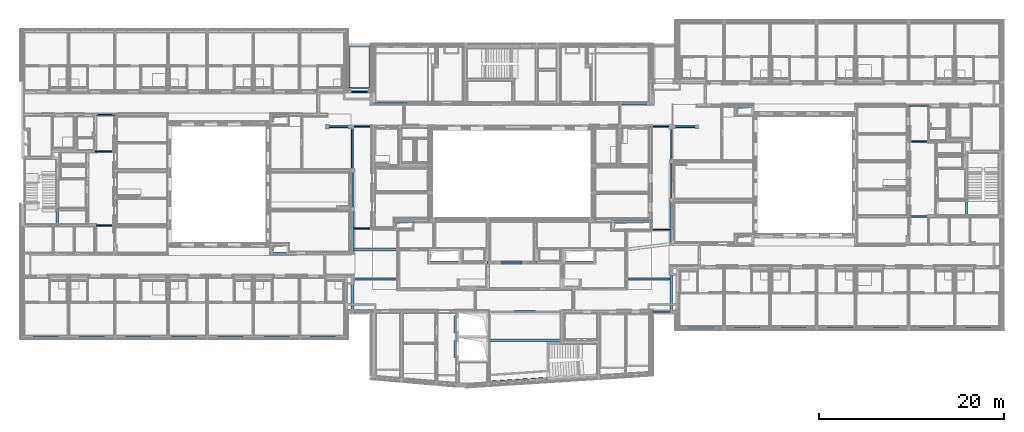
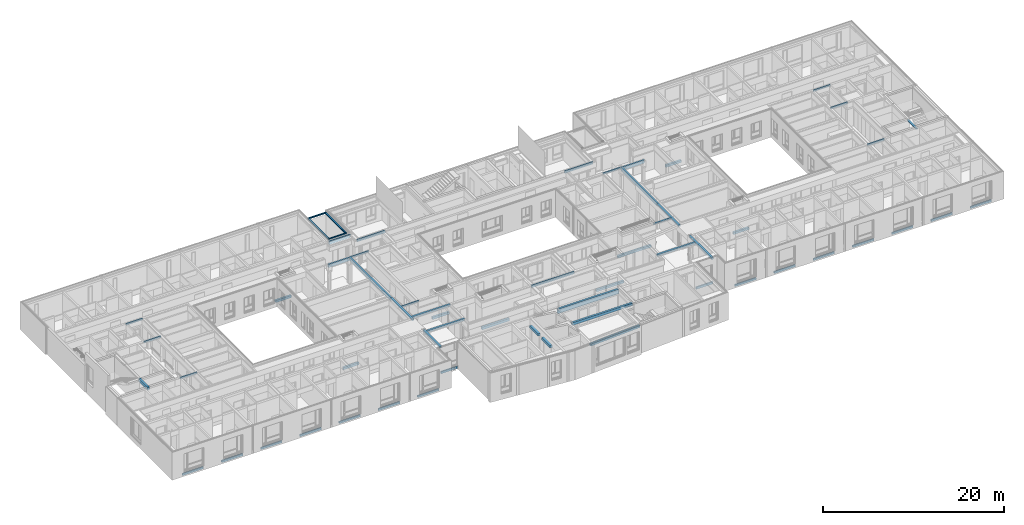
# One storey, part 5 of 222: 61 beams.
"""IFC4 building model written with IfcOpenShell, lengths in metres."""

import ifcopenshell
import ifcopenshell.guid

model = None  # the IFC model being written
_history = None  # IfcOwnerHistory: only IFC2X3 demands one
_inside = {}  # id of a spatial element -> (the spatial element, [elements in it])
_under = {}  # id of a project, library or spatial element -> (it, [spatial elements below it])
_declared = {}  # id of a project -> (the project, [libraries it declares])
_typed = {}  # id of a type object -> (the type object, [elements of that type])
_made_of = {}  # id of a material, layer set ... -> (it, [elements and type objects made of it])


def new_model(schema):
    """Start an empty IFC model of exactly this schema.

    Asked for "IFC4X3", IfcOpenShell would pick the latest addendum, in which some entities
    have other attributes; the version numbers below select the first issue.
    IFC2X3 requires an IfcOwnerHistory on every rooted entity: one is made here for all.
    """
    global model, _history
    if schema == "IFC4X3":
        model = ifcopenshell.file(schema_version=(4, 3, 0, 0))
    else:
        model = ifcopenshell.file(schema=schema)
    _inside.clear()
    _under.clear()
    _declared.clear()
    _typed.clear()
    _made_of.clear()
    _history = None
    if model.schema == "IFC2X3":
        org = make("IfcOrganization", Name="unknown")
        user = make(
            "IfcPersonAndOrganization",
            ThePerson=make("IfcPerson", FamilyName="unknown"),
            TheOrganization=org,
        )
        app = make(
            "IfcApplication",
            ApplicationDeveloper=org,
            Version="unknown",
            ApplicationFullName="unknown",
            ApplicationIdentifier="unknown",
        )
        _history = make(
            "IfcOwnerHistory",
            OwningUser=user,
            OwningApplication=app,
            ChangeAction="ADDED",
            CreationDate=0,
        )
    return model


def make(cls, **values):
    """One entity of the class cls with the attributes given. An attribute that is None is left unset."""
    return model.create_entity(
        cls, **{name: value for name, value in values.items() if value is not None}
    )


def entity(cls, *values):
    """Any entity or typed value of the class cls, its attributes in the order of the schema. None: left unset."""
    e = model.create_entity(cls)
    for i, value in enumerate(values):
        if value is not None:
            e[i] = value
    return e


def rooted(cls, **values):
    """An entity with a GlobalId (a new one), such as an element, a storey or a relation."""
    return make(cls, GlobalId=ifcopenshell.guid.new(), OwnerHistory=_history, **values)


def si_unit(unit_type, name, prefix=None):
    """IfcSIUnit, for example si_unit("LENGTHUNIT", "METRE", prefix="MILLI")."""
    return make("IfcSIUnit", UnitType=unit_type, Prefix=prefix, Name=name)


def converted_unit(unit_type, name, factor, base, dimensions=None, offset=None):
    """IfcConversionBasedUnit, such as the inch: factor (a typed value) times the base unit."""
    return make(
        "IfcConversionBasedUnit"
        if offset is None
        else "IfcConversionBasedUnitWithOffset",
        ConversionOffset=offset,
        Dimensions=None
        if dimensions is None
        else entity("IfcDimensionalExponents", *dimensions),
        UnitType=unit_type,
        Name=name,
        ConversionFactor=make(
            "IfcMeasureWithUnit", ValueComponent=factor, UnitComponent=base
        ),
    )


def derived_unit(unit_type, elements):
    """IfcDerivedUnit: a product of units, each with its exponent."""
    return make(
        "IfcDerivedUnit",
        Elements=[
            make("IfcDerivedUnitElement", Unit=unit, Exponent=power)
            for unit, power in elements
        ],
        UnitType=unit_type,
    )


def assignment(units):
    """IfcUnitAssignment: the units of a project."""
    return None if units is None else make("IfcUnitAssignment", Units=units)


def point(xyz):
    """IfcCartesianPoint."""
    return None if xyz is None else make("IfcCartesianPoint", Coordinates=xyz)


def direction(xyz):
    """IfcDirection."""
    return None if xyz is None else make("IfcDirection", DirectionRatios=xyz)


def frame(location, z_axis=None, x_axis=None):
    """IfcAxis2Placement3D, a coordinate frame: its origin and axes. An axis left out is left unset."""
    return make(
        "IfcAxis2Placement3D",
        Location=point(location),
        Axis=direction(z_axis),
        RefDirection=direction(x_axis),
    )


def frame_2d(location, x_axis=None):
    """IfcAxis2Placement2D, a coordinate frame in the plane: its origin and x axis."""
    return make(
        "IfcAxis2Placement2D", Location=point(location), RefDirection=direction(x_axis)
    )


def origin():
    """The frame at (0, 0, 0) with its axes left unset."""
    return frame((0.0, 0.0, 0.0))


def place(relative_to, where):
    """IfcLocalPlacement: puts the frame where relative to a parent placement (None: the world)."""
    return make(
        "IfcLocalPlacement", PlacementRelTo=relative_to, RelativePlacement=where
    )


def context(
    kind, dimensions, precision=None, world=None, true_north=None, identifier=None
):
    """IfcGeometricRepresentationContext, for example the 3D "Model" context."""
    return make(
        "IfcGeometricRepresentationContext",
        ContextIdentifier=identifier,
        ContextType=kind,
        CoordinateSpaceDimension=dimensions,
        Precision=precision,
        WorldCoordinateSystem=world,
        TrueNorth=true_north,
    )


def subcontext(parent, identifier, kind, view, scale=None):
    """IfcGeometricRepresentationSubContext, for example "Body" below "Model"."""
    return make(
        "IfcGeometricRepresentationSubContext",
        ContextIdentifier=identifier,
        ContextType=kind,
        ParentContext=parent,
        TargetScale=scale,
        TargetView=view,
    )


def project(units=None, contexts=None):
    """IfcProject with its units and contexts."""
    return rooted(
        "IfcProject",
        Name="project",
        RepresentationContexts=contexts,
        UnitsInContext=assignment(units),
    )


def spatial(cls, under=None, at=None, **own):
    """A site, building, storey or space (cls), placed at a placement, below another one or the project."""
    s = rooted(cls, ObjectPlacement=at, **own)
    if under is not None:
        _under.setdefault(under.id(), (under, []))[1].append(s)
    return s


def polyline(points):
    """IfcPolyline through the points."""
    return make("IfcPolyline", Points=[point(p) for p in points])


def profile(cls, at=None, kind="AREA", **sizes):
    """A parametric profile (cls). Its sizes go by their IFC names, for example OverallWidth=200.0."""
    return make(cls, ProfileType=kind, Position=at, **sizes)


def rectangle(**sizes):
    """IfcRectangleProfileDef."""
    return profile("IfcRectangleProfileDef", **sizes)


def outline(outer, holes=None, kind="AREA"):
    """IfcArbitraryClosedProfileDef: a profile drawn as a closed curve; with holes, ...WithVoids."""
    if holes is None:
        return make("IfcArbitraryClosedProfileDef", ProfileType=kind, OuterCurve=outer)
    return make(
        "IfcArbitraryProfileDefWithVoids",
        ProfileType=kind,
        OuterCurve=outer,
        InnerCurves=holes,
    )


def extrude(swept, where, along, depth):
    """IfcExtrudedAreaSolid: the profile swept, set in the frame where, extruded along a direction by depth."""
    return make(
        "IfcExtrudedAreaSolid",
        SweptArea=swept,
        Position=where,
        ExtrudedDirection=direction(along),
        Depth=depth,
    )


def shape(context_of_items, identifier, shape_type, items):
    """IfcShapeRepresentation: the items that make up one representation, for example the "Body"."""
    return make(
        "IfcShapeRepresentation",
        ContextOfItems=context_of_items,
        RepresentationIdentifier=identifier,
        RepresentationType=shape_type,
        Items=items,
    )


def material(Name=None, Category=None):
    """IfcMaterial."""
    return make("IfcMaterial", Name=Name, Category=Category)


def made_of(thing, what):
    """Note that an element or type object is made of a material, layer set ...; save() writes the relation."""
    if what is not None:
        _made_of.setdefault(what.id(), (what, []))[1].append(thing)
    return thing


def element(
    cls,
    number,
    at=None,
    inside=None,
    cuts=None,
    type_object=None,
    material=None,
    context=None,
    identifier="Body",
    shape_type=None,
    held_by="IfcProductDefinitionShape",
    body=None,
    shapes=None,
    **own,
):
    """One element of the class cls, such as IfcWall. Its Tag is "e" and its number.

    at: its placement. inside: the storey or other place that contains it. cuts: it is an
    opening in that element (IfcRelVoidsElement). A single representation is given by context,
    identifier, shape_type and body (its items); several are given by shapes. held_by: the class
    of the entity that holds the representations. save() writes the other relations.
    """
    e = rooted(cls, Tag="e%d" % number, ObjectPlacement=at, **own)
    if body is not None:
        shapes = [shape(context, identifier, shape_type, body)]
    if shapes is not None:
        e.Representation = make(held_by, Representations=shapes)
    if inside is not None:
        _inside.setdefault(inside.id(), (inside, []))[1].append(e)
    if cuts is not None:
        rooted(
            "IfcRelVoidsElement", RelatingBuildingElement=cuts, RelatedOpeningElement=e
        )
    if type_object is not None:
        _typed.setdefault(type_object.id(), (type_object, []))[1].append(e)
    return made_of(e, material)


def aggregate(whole, parts):
    """IfcRelAggregates: a whole, such as a stair, and the parts it consists of."""
    return rooted("IfcRelAggregates", RelatingObject=whole, RelatedObjects=parts)


def save(model, path):
    """Write the relations noted so far, then the file.

    IfcRelAggregates (storeys below a building ...), IfcRelContainedInSpatialStructure (elements
    in a storey), IfcRelDefinesByType, IfcRelAssociatesMaterial and IfcRelDeclares: one each for
    every whole, place, type object, material and project.
    """
    for whole, parts in _under.values():
        aggregate(whole, parts)
    for where, things in _inside.values():
        rooted(
            "IfcRelContainedInSpatialStructure",
            RelatedElements=things,
            RelatingStructure=where,
        )
    for kind, things in _typed.values():
        rooted("IfcRelDefinesByType", RelatedObjects=things, RelatingType=kind)
    for what, things in _made_of.values():
        rooted("IfcRelAssociatesMaterial", RelatedObjects=things, RelatingMaterial=what)
    for by, libraries in _declared.values():
        rooted("IfcRelDeclares", RelatingContext=by, RelatedDefinitions=libraries)
    model.write(path)


model = new_model("IFC4")

# Units and contexts
model_context = context("Model", 3, precision=1e-05, world=origin())
body_context = subcontext(model_context, "Body", "Model", "MODEL_VIEW")
ifc_project = project(units=[si_unit("LENGTHUNIT", "METRE"), si_unit("AREAUNIT", "SQUARE_METRE"), si_unit("VOLUMEUNIT", "CUBIC_METRE"), si_unit("MASSUNIT", "GRAM", prefix="KILO"), converted_unit("PLANEANGLEUNIT", "DEGREE", entity("IfcPlaneAngleMeasure", 0.0174532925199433), si_unit("PLANEANGLEUNIT", "RADIAN"), dimensions=[0, 0, 0, 0, 0, 0, 0]), derived_unit("THERMALTRANSMITTANCEUNIT", [(si_unit("POWERUNIT", "WATT"), 1), (si_unit("THERMODYNAMICTEMPERATUREUNIT", "KELVIN"), -1), (si_unit("LENGTHUNIT", "METRE"), -2)]), derived_unit("VOLUMETRICFLOWRATEUNIT", [(si_unit("LENGTHUNIT", "METRE"), 3), (converted_unit("TIMEUNIT", "hour", entity("IfcTimeMeasure", 3600.0), si_unit("TIMEUNIT", "SECOND"), dimensions=[0, 0, 1, 0, 0, 0, 0]), -1), (si_unit("LENGTHUNIT", "METRE"), -1)])], contexts=[model_context])

# Site, building, storey
site_placement = place(None, origin())
site = spatial("IfcSite", under=ifc_project, at=site_placement, Name="Psychiatrie Neubau Wunstorf", CompositionType="ELEMENT")
building_placement = place(site_placement, origin())
building = spatial("IfcBuilding", under=site, at=building_placement, Name="Neubau H2 Stationsgebäude", CompositionType="ELEMENT")
storey_placement = place(building_placement, frame((0.0, 0.0, 3.6)))
storey = spatial("IfcBuildingStorey", under=building, at=storey_placement, Name="H2 Ebene +1", CompositionType="ELEMENT", Elevation=3.6)

# Beams
ifc_material_1 = material(Name="H")
beam_1_placement = place(storey_placement, frame((35.6649950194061, 0.339999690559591, 0.0), z_axis=(0.0, 0.0, 1.0), x_axis=(1.0, -2.87483299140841e-16, 0.0)))
element("IfcBeam", 1, at=beam_1_placement, inside=storey, material=ifc_material_1, PredefinedType="NOTDEFINED", context=body_context, shape_type="SweptSolid", body=[
    extrude(rectangle(XDim=0.16, YDim=0.28, at=frame_2d((0.08, 0.14), x_axis=(1.0, 0.0))), frame((0.0, 0.0, 0.0), z_axis=(1.0, 0.0, 0.0), x_axis=(0.0, 1.0, 0.0)), (0.0, 0.0, 1.0), 2.17500498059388),
])
ifc_material_2 = material(Name="H")
beam_2_placement = place(storey_placement, frame((70.3349950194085, 0.499999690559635, 0.0), z_axis=(0.0, 0.0, 1.0), x_axis=(-1.0, 3.96306418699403e-16, 0.0)))
element("IfcBeam", 2, at=beam_2_placement, inside=storey, material=ifc_material_2, PredefinedType="NOTDEFINED", context=body_context, shape_type="SweptSolid", body=[
    extrude(rectangle(XDim=0.16, YDim=0.28, at=frame_2d((0.08, 0.14), x_axis=(1.0, 0.0))), frame((0.0, 0.0, 0.0), z_axis=(1.0, 0.0, 0.0), x_axis=(0.0, 1.0, 0.0)), (0.0, 0.0, 1.0), 2.15149501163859),
])
ifc_material_3 = material(Name="ÜZ-H")
beam_3_placement = place(storey_placement, frame((33.85, -2.19999986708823, 0.0), z_axis=(0.0, 0.0, 1.0), x_axis=(-1.0, 0.0, 0.0)))
element("IfcBeam", 3, at=beam_3_placement, inside=storey, material=ifc_material_3, PredefinedType="NOTDEFINED", context=body_context, shape_type="SweptSolid", body=[
    extrude(rectangle(XDim=0.16, YDim=0.26, at=frame_2d((0.08, 0.13), x_axis=(1.0, 0.0))), frame((0.0, 0.0, 0.0), z_axis=(1.0, 0.0, 0.0), x_axis=(0.0, 1.0, 0.0)), (0.0, 0.0, 1.0), 2.7000000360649),
])
ifc_material_4 = material(Name="H")
beam_4_placement = place(storey_placement, frame((37.8935, 24.36, 3.15), z_axis=(0.0, 0.0, 1.0), x_axis=(-1.0, 0.0, 0.0)))
element("IfcBeam", 4, at=beam_4_placement, inside=storey, material=ifc_material_4, PredefinedType="NOTDEFINED", context=body_context, shape_type="SweptSolid", body=[
    extrude(rectangle(XDim=0.21, YDim=0.4, at=frame_2d((0.105, 0.2), x_axis=(1.0, 0.0))), frame((0.0, 0.0, 0.0), z_axis=(1.0, 0.0, 0.0), x_axis=(0.0, 1.0, 0.0)), (0.0, 0.0, 1.0), 2.7185),
])
ifc_material_5 = material(Name="H")
beam_5_placement = place(storey_placement, frame((35.1750000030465, 24.15, 3.15)))
element("IfcBeam", 5, at=beam_5_placement, inside=storey, material=ifc_material_5, PredefinedType="NOTDEFINED", context=body_context, shape_type="SweptSolid", body=[
    extrude(rectangle(XDim=0.16, YDim=0.4, at=frame_2d((0.08, 0.2), x_axis=(1.0, 0.0))), frame((0.0, 0.0, 0.0), z_axis=(1.0, 0.0, 0.0), x_axis=(0.0, 1.0, 0.0)), (0.0, 0.0, 1.0), 2.65),
])
ifc_material_6 = material(Name="ÜZ-H")
beam_6_placement = place(storey_placement, frame((3.85, -2.19999986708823, 0.0), z_axis=(0.0, 0.0, 1.0), x_axis=(-1.0, 0.0, 0.0)))
element("IfcBeam", 6, at=beam_6_placement, inside=storey, material=ifc_material_6, PredefinedType="NOTDEFINED", context=body_context, shape_type="SweptSolid", body=[
    extrude(rectangle(XDim=0.16, YDim=0.26, at=frame_2d((0.08, 0.13), x_axis=(1.0, 0.0))), frame((0.0, 0.0, 0.0), z_axis=(1.0, 0.0, 0.0), x_axis=(0.0, 1.0, 0.0)), (0.0, 0.0, 1.0), 2.7000000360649),
])
ifc_material_7 = material(Name="ÜZ-H")
beam_7_placement = place(storey_placement, frame((28.85, -2.19999986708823, 0.0), z_axis=(0.0, 0.0, 1.0), x_axis=(-1.0, 0.0, 0.0)))
element("IfcBeam", 7, at=beam_7_placement, inside=storey, material=ifc_material_7, PredefinedType="NOTDEFINED", context=body_context, shape_type="SweptSolid", body=[
    extrude(rectangle(XDim=0.16, YDim=0.26, at=frame_2d((0.08, 0.13), x_axis=(1.0, 0.0))), frame((0.0, 0.0, 0.0), z_axis=(1.0, 0.0, 0.0), x_axis=(0.0, 1.0, 0.0)), (0.0, 0.0, 1.0), 2.7000000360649),
])
ifc_material_8 = material(Name="ÜZ-H")
beam_8_placement = place(storey_placement, frame((23.85, -2.19999986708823, 0.0), z_axis=(0.0, 0.0, 1.0), x_axis=(-1.0, 0.0, 0.0)))
element("IfcBeam", 8, at=beam_8_placement, inside=storey, material=ifc_material_8, PredefinedType="NOTDEFINED", context=body_context, shape_type="SweptSolid", body=[
    extrude(rectangle(XDim=0.16, YDim=0.26, at=frame_2d((0.08, 0.13), x_axis=(1.0, 0.0))), frame((0.0, 0.0, 0.0), z_axis=(1.0, 0.0, 0.0), x_axis=(0.0, 1.0, 0.0)), (0.0, 0.0, 1.0), 2.7000000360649),
])
ifc_material_9 = material(Name="ÜZ-H")
beam_9_placement = place(storey_placement, frame((18.85, -2.19999986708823, 0.0), z_axis=(0.0, 0.0, 1.0), x_axis=(-1.0, 0.0, 0.0)))
element("IfcBeam", 9, at=beam_9_placement, inside=storey, material=ifc_material_9, PredefinedType="NOTDEFINED", context=body_context, shape_type="SweptSolid", body=[
    extrude(rectangle(XDim=0.16, YDim=0.26, at=frame_2d((0.08, 0.13), x_axis=(1.0, 0.0))), frame((0.0, 0.0, 0.0), z_axis=(1.0, 0.0, 0.0), x_axis=(0.0, 1.0, 0.0)), (0.0, 0.0, 1.0), 2.7000000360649),
])
ifc_material_10 = material(Name="ÜZ-H")
beam_10_placement = place(storey_placement, frame((8.85, -2.19999986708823, 0.0), z_axis=(0.0, 0.0, 1.0), x_axis=(-1.0, 0.0, 0.0)))
element("IfcBeam", 10, at=beam_10_placement, inside=storey, material=ifc_material_10, PredefinedType="NOTDEFINED", context=body_context, shape_type="SweptSolid", body=[
    extrude(rectangle(XDim=0.16, YDim=0.26, at=frame_2d((0.08, 0.13), x_axis=(1.0, 0.0))), frame((0.0, 0.0, 0.0), z_axis=(1.0, 0.0, 0.0), x_axis=(0.0, 1.0, 0.0)), (0.0, 0.0, 1.0), 2.7000000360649),
])
ifc_material_11 = material(Name="ÜZ-H")
beam_11_placement = place(storey_placement, frame((13.85, -2.19999986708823, 0.0), z_axis=(0.0, 0.0, 1.0), x_axis=(-1.0, 0.0, 0.0)))
element("IfcBeam", 11, at=beam_11_placement, inside=storey, material=ifc_material_11, PredefinedType="NOTDEFINED", context=body_context, shape_type="SweptSolid", body=[
    extrude(rectangle(XDim=0.16, YDim=0.26, at=frame_2d((0.08, 0.13), x_axis=(1.0, 0.0))), frame((0.0, 0.0, 0.0), z_axis=(1.0, 0.0, 0.0), x_axis=(0.0, 1.0, 0.0)), (0.0, 0.0, 1.0), 2.7000000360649),
])
ifc_material_12 = material(Name="ÜZ-H")
beam_12_placement = place(storey_placement, frame((104.850000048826, -1.19999986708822, 0.0), z_axis=(0.0, 0.0, 1.0), x_axis=(-1.0, 0.0, 0.0)))
element("IfcBeam", 12, at=beam_12_placement, inside=storey, material=ifc_material_12, PredefinedType="NOTDEFINED", context=body_context, shape_type="SweptSolid", body=[
    extrude(rectangle(XDim=0.16, YDim=0.26, at=frame_2d((0.08, 0.13), x_axis=(1.0, 0.0))), frame((0.0, 0.0, 0.0), z_axis=(1.0, 0.0, 0.0), x_axis=(0.0, 1.0, 0.0)), (0.0, 0.0, 1.0), 2.7000000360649),
])
ifc_material_13 = material(Name="ÜZ-H")
beam_13_placement = place(storey_placement, frame((99.8500000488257, -1.19999986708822, 0.0), z_axis=(0.0, 0.0, 1.0), x_axis=(-1.0, 0.0, 0.0)))
element("IfcBeam", 13, at=beam_13_placement, inside=storey, material=ifc_material_13, PredefinedType="NOTDEFINED", context=body_context, shape_type="SweptSolid", body=[
    extrude(rectangle(XDim=0.16, YDim=0.26, at=frame_2d((0.08, 0.13), x_axis=(1.0, 0.0))), frame((0.0, 0.0, 0.0), z_axis=(1.0, 0.0, 0.0), x_axis=(0.0, 1.0, 0.0)), (0.0, 0.0, 1.0), 2.7000000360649),
])
ifc_material_14 = material(Name="ÜZ-H")
beam_14_placement = place(storey_placement, frame((94.8500000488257, -1.19999986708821, 0.0), z_axis=(0.0, 0.0, 1.0), x_axis=(-1.0, 0.0, 0.0)))
element("IfcBeam", 14, at=beam_14_placement, inside=storey, material=ifc_material_14, PredefinedType="NOTDEFINED", context=body_context, shape_type="SweptSolid", body=[
    extrude(rectangle(XDim=0.16, YDim=0.26, at=frame_2d((0.08, 0.13), x_axis=(1.0, 0.0))), frame((0.0, 0.0, 0.0), z_axis=(1.0, 0.0, 0.0), x_axis=(0.0, 1.0, 0.0)), (0.0, 0.0, 1.0), 2.7000000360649),
])
ifc_material_15 = material(Name="ÜZ-H")
beam_15_placement = place(storey_placement, frame((89.8500000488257, -1.19999986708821, 0.0), z_axis=(0.0, 0.0, 1.0), x_axis=(-1.0, 0.0, 0.0)))
element("IfcBeam", 15, at=beam_15_placement, inside=storey, material=ifc_material_15, PredefinedType="NOTDEFINED", context=body_context, shape_type="SweptSolid", body=[
    extrude(rectangle(XDim=0.16, YDim=0.26, at=frame_2d((0.08, 0.13), x_axis=(1.0, 0.0))), frame((0.0, 0.0, 0.0), z_axis=(1.0, 0.0, 0.0), x_axis=(0.0, 1.0, 0.0)), (0.0, 0.0, 1.0), 2.7000000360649),
])
ifc_material_16 = material(Name="ÜZ-H")
beam_16_placement = place(storey_placement, frame((84.8500000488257, -1.19999986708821, 0.0), z_axis=(0.0, 0.0, 1.0), x_axis=(-1.0, 0.0, 0.0)))
element("IfcBeam", 16, at=beam_16_placement, inside=storey, material=ifc_material_16, PredefinedType="NOTDEFINED", context=body_context, shape_type="SweptSolid", body=[
    extrude(rectangle(XDim=0.16, YDim=0.26, at=frame_2d((0.08, 0.13), x_axis=(1.0, 0.0))), frame((0.0, 0.0, 0.0), z_axis=(1.0, 0.0, 0.0), x_axis=(0.0, 1.0, 0.0)), (0.0, 0.0, 1.0), 2.7000000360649),
])
ifc_material_17 = material(Name="ÜZ-H")
beam_17_placement = place(storey_placement, frame((79.8500000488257, -1.19999986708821, 0.0), z_axis=(0.0, 0.0, 1.0), x_axis=(-1.0, 0.0, 0.0)))
element("IfcBeam", 17, at=beam_17_placement, inside=storey, material=ifc_material_17, PredefinedType="NOTDEFINED", context=body_context, shape_type="SweptSolid", body=[
    extrude(rectangle(XDim=0.16, YDim=0.26, at=frame_2d((0.08, 0.13), x_axis=(1.0, 0.0))), frame((0.0, 0.0, 0.0), z_axis=(1.0, 0.0, 0.0), x_axis=(0.0, 1.0, 0.0)), (0.0, 0.0, 1.0), 2.7000000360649),
])
ifc_material_18 = material(Name="ÜZ-H")
beam_18_placement = place(storey_placement, frame((74.8500000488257, -1.19999986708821, 0.0), z_axis=(0.0, 0.0, 1.0), x_axis=(-1.0, 0.0, 0.0)))
element("IfcBeam", 18, at=beam_18_placement, inside=storey, material=ifc_material_18, PredefinedType="NOTDEFINED", context=body_context, shape_type="SweptSolid", body=[
    extrude(rectangle(XDim=0.16, YDim=0.26, at=frame_2d((0.08, 0.13), x_axis=(1.0, 0.0))), frame((0.0, 0.0, 0.0), z_axis=(1.0, 0.0, 0.0), x_axis=(0.0, 1.0, 0.0)), (0.0, 0.0, 1.0), 2.7000000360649),
])
ifc_material_19 = material(Name="STB")
beam_19_placement = place(storey_placement, frame((50.3138183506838, -7.34740201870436, 3.25), z_axis=(0.0, 0.0, 1.0), x_axis=(0.997944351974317, 0.0640864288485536, 0.0)))
element("IfcBeam", 19, at=beam_19_placement, inside=storey, material=ifc_material_19, PredefinedType="NOTDEFINED", context=body_context, shape_type="SweptSolid", body=[
    extrude(rectangle(XDim=0.249999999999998, YDim=0.3, at=frame_2d((0.124999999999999, 0.15), x_axis=(1.0, 0.0))), frame((0.0, 0.0, 0.0), z_axis=(1.0, 0.0, 0.0), x_axis=(0.0, 1.0, 0.0)), (0.0, 0.0, 1.0), 6.52725093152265),
])
ifc_material_20 = material(Name="HEA140")
beam_20_placement = place(storey_placement, frame((38.025, 20.5560022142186, 3.417), z_axis=(0.0, 0.0, 1.0), x_axis=(-1.0, 0.0, 0.0)))
element("IfcBeam", 20, at=beam_20_placement, inside=storey, material=ifc_material_20, Name="HEA140", PredefinedType="NOTDEFINED", context=body_context, shape_type="SweptSolid", body=[
    extrude(rectangle(XDim=0.14, YDim=0.133, at=frame_2d((0.07, 0.0665), x_axis=(1.0, 0.0))), frame((0.0, 0.0, 0.0), z_axis=(1.0, 0.0, 0.0), x_axis=(0.0, 1.0, 0.0)), (0.0, 0.0, 1.0), 2.215),
])
ifc_material_21 = material(Name="HEA240")
beam_21_placement = place(storey_placement, frame((70.375000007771, 7.63250000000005, 3.32), z_axis=(0.0, 0.0, 1.0), x_axis=(0.0, 1.0, 0.0)))
element("IfcBeam", 21, at=beam_21_placement, inside=storey, material=ifc_material_21, Name="HEA240", PredefinedType="NOTDEFINED", context=body_context, shape_type="SweptSolid", body=[
    extrude(rectangle(XDim=0.24, YDim=0.23, at=frame_2d((0.12, 0.115), x_axis=(1.0, 0.0))), frame((0.0, 0.0, 0.0), z_axis=(1.0, 0.0, 0.0), x_axis=(0.0, 1.0, 0.0)), (0.0, 0.0, 1.0), 4.81755950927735),
])
ifc_material_22 = material(Name="HEA240")
beam_22_placement = place(storey_placement, frame((70.3749950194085, 0.3399963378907, 3.32), z_axis=(0.0, 0.0, 1.0), x_axis=(0.0, 1.0, 0.0)))
element("IfcBeam", 22, at=beam_22_placement, inside=storey, material=ifc_material_22, Name="HEA240", PredefinedType="NOTDEFINED", context=body_context, shape_type="SweptSolid", body=[
    extrude(rectangle(XDim=0.24, YDim=0.23, at=frame_2d((0.12, 0.115), x_axis=(1.0, 0.0))), frame((0.0, 0.0, 0.0), z_axis=(1.0, 0.0, 0.0), x_axis=(0.0, 1.0, 0.0)), (0.0, 0.0, 1.0), 4.96750366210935),
])
ifc_material_23 = material(Name="HEA240")
beam_23_placement = place(storey_placement, frame((35.8649950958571, 0.549999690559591, 3.32), z_axis=(0.0, 0.0, 1.0), x_axis=(0.0, 1.0, 0.0)))
element("IfcBeam", 23, at=beam_23_placement, inside=storey, material=ifc_material_23, Name="HEA240", PredefinedType="NOTDEFINED", context=body_context, shape_type="SweptSolid", body=[
    extrude(rectangle(XDim=0.24, YDim=0.23, at=frame_2d((0.12, 0.115), x_axis=(1.0, 0.0))), frame((0.0, 0.0, 0.0), z_axis=(1.0, 0.0, 0.0), x_axis=(0.0, 1.0, 0.0)), (0.0, 0.0, 1.0), 3.7557499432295),
])
ifc_material_24 = material(Name="HEA140")
beam_24_placement = place(storey_placement, frame((38.0400030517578, 9.49999798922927, 3.417), z_axis=(0.0, 0.0, 1.0), x_axis=(-1.0, 0.0, 0.0)))
element("IfcBeam", 24, at=beam_24_placement, inside=storey, material=ifc_material_24, Name="HEA140", PredefinedType="NOTDEFINED", context=body_context, shape_type="SweptSolid", body=[
    extrude(rectangle(XDim=0.14, YDim=0.133, at=frame_2d((0.07, 0.0665), x_axis=(1.0, 0.0))), frame((0.0, 0.0, 0.0), z_axis=(1.0, 0.0, 0.0), x_axis=(0.0, 1.0, 0.0)), (0.0, 0.0, 1.0), 2.17500305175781),
])
ifc_material_25 = material(Name="HEA140")
beam_25_placement = place(storey_placement, frame((70.2000061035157, 20.5559972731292, 3.417), z_axis=(0.0, 0.0, 1.0), x_axis=(-0.999999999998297, 1.84581043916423e-06, 0.0)))
element("IfcBeam", 25, at=beam_25_placement, inside=storey, material=ifc_material_25, Name="HEA140", PredefinedType="NOTDEFINED", context=body_context, shape_type="SweptSolid", body=[
    extrude(rectangle(XDim=0.14, YDim=0.133, at=frame_2d((0.07, 0.0665), x_axis=(1.0, 0.0))), frame((0.0, 0.0, 0.0), z_axis=(1.0, 0.0, 0.0), x_axis=(0.0, 1.0, 0.0)), (0.0, 0.0, 1.0), 2.27851528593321),
])
ifc_material_26 = material(Name="HEA240")
beam_26_placement = place(storey_placement, frame((40.7349975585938, 4.07999969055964, 3.32), z_axis=(0.0, 0.0, 1.0), x_axis=(-1.0, 2.80131696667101e-16, 0.0)))
element("IfcBeam", 26, at=beam_26_placement, inside=storey, material=ifc_material_26, Name="HEA240", PredefinedType="NOTDEFINED", context=body_context, shape_type="SweptSolid", body=[
    extrude(rectangle(XDim=0.24, YDim=0.23, at=frame_2d((0.12, 0.115), x_axis=(1.0, 0.0))), frame((0.0, 0.0, 0.0), z_axis=(1.0, 0.0, 0.0), x_axis=(0.0, 1.0, 0.0)), (0.0, 0.0, 1.0), 4.87000246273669),
])
ifc_material_27 = material(Name="HEA240")
beam_27_placement = place(storey_placement, frame((65.2649963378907, 3.8399969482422, 3.32), z_axis=(0.0, 0.0, 1.0), x_axis=(0.999999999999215, -1.25328922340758e-06, 0.0)))
element("IfcBeam", 27, at=beam_27_placement, inside=storey, material=ifc_material_27, Name="HEA240", PredefinedType="NOTDEFINED", context=body_context, shape_type="SweptSolid", body=[
    extrude(rectangle(XDim=0.24, YDim=0.23, at=frame_2d((0.12, 0.115), x_axis=(1.0, 0.0))), frame((0.0, 0.0, 0.0), z_axis=(1.0, 0.0, 0.0), x_axis=(0.0, 1.0, 0.0)), (0.0, 0.0, 1.0), 4.86999898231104),
])
ifc_material_28 = material(Name="HEA140")
beam_28_placement = place(storey_placement, frame((67.923000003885, 9.2349975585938, 3.417)))
element("IfcBeam", 28, at=beam_28_placement, inside=storey, material=ifc_material_28, Name="HEA140", PredefinedType="NOTDEFINED", context=body_context, shape_type="SweptSolid", body=[
    extrude(rectangle(XDim=0.140000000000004, YDim=0.133, at=frame_2d((0.0700000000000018, 0.0665), x_axis=(1.0, 0.0))), frame((0.0, 0.0, 0.0), z_axis=(1.0, 0.0, 0.0), x_axis=(0.0, 1.0, 0.0)), (0.0, 0.0, 1.0), 2.2119999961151),
])
ifc_material_29 = material(Name="HEA240")
beam_29_placement = place(storey_placement, frame((40.7349975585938, 7.26650243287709, 3.32), z_axis=(0.0, 0.0, 1.0), x_axis=(-1.0, 0.0, 0.0)))
element("IfcBeam", 29, at=beam_29_placement, inside=storey, material=ifc_material_29, Name="HEA240", PredefinedType="NOTDEFINED", context=body_context, shape_type="SweptSolid", body=[
    extrude(rectangle(XDim=0.24, YDim=0.23, at=frame_2d((0.12, 0.115), x_axis=(1.0, 0.0))), frame((0.0, 0.0, 0.0), z_axis=(1.0, 0.0, 0.0), x_axis=(0.0, 1.0, 0.0)), (0.0, 0.0, 1.0), 4.8699975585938),
])
ifc_material_30 = material(Name="HEA240")
beam_30_placement = place(storey_placement, frame((35.865, 6.64199999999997, 3.32), z_axis=(0.0, 0.0, 1.0), x_axis=(-1.51218414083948e-15, 1.0, 0.0)))
element("IfcBeam", 30, at=beam_30_placement, inside=storey, material=ifc_material_30, Name="HEA240", PredefinedType="NOTDEFINED", context=body_context, shape_type="SweptSolid", body=[
    extrude(rectangle(XDim=0.24, YDim=0.23, at=frame_2d((0.12, 0.115), x_axis=(1.0, 0.0))), frame((0.0, 0.0, 0.0), z_axis=(1.0, 0.0, 0.0), x_axis=(0.0, 1.0, 0.0)), (0.0, 0.0, 1.0), 4.81155529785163),
])
ifc_material_31 = material(Name="H")
beam_31_placement = place(storey_placement, frame((7.84350410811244, 21.64, 3.35)))
element("IfcBeam", 31, at=beam_31_placement, inside=storey, material=ifc_material_31, PredefinedType="NOTDEFINED", context=body_context, shape_type="SweptSolid", body=[
    extrude(rectangle(XDim=0.16, YDim=0.2, at=frame_2d((0.08, 0.1), x_axis=(1.0, 0.0))), frame((0.0, 0.0, 0.0), z_axis=(1.0, 0.0, 0.0), x_axis=(0.0, 1.0, 0.0)), (0.0, 0.0, 1.0), 2.15),
])
ifc_material_32 = material(Name="H")
beam_32_placement = place(storey_placement, frame((95.9999998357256, 22.6400026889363, 3.35), z_axis=(0.0, 0.0, 1.0), x_axis=(1.0, -1.69208316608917e-15, 0.0)))
element("IfcBeam", 32, at=beam_32_placement, inside=storey, material=ifc_material_32, PredefinedType="NOTDEFINED", context=body_context, shape_type="SweptSolid", body=[
    extrude(rectangle(XDim=0.16, YDim=0.2, at=frame_2d((0.08, 0.1), x_axis=(1.0, 0.0))), frame((0.0, 0.0, 0.0), z_axis=(1.0, 0.0, 0.0), x_axis=(0.0, 1.0, 0.0)), (0.0, 0.0, 1.0), 2.15),
])
ifc_material_33 = material(Name="STB")
beam_33_placement = place(storey_placement, frame((77.15, 22.5560008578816, -0.2)))
element("IfcBeam", 33, at=beam_33_placement, inside=storey, material=ifc_material_33, PredefinedType="NOTDEFINED", context=body_context, shape_type="SweptSolid", body=[
    extrude(rectangle(XDim=0.25, YDim=0.3, at=frame_2d((0.125, 0.15), x_axis=(1.0, 0.0))), frame((0.0, 0.0, 0.0), z_axis=(1.0, 0.0, 0.0), x_axis=(0.0, 1.0, 0.0)), (0.0, 0.0, 1.0), 2.0),
])
ifc_material_34 = material(Name="STB")
beam_34_placement = place(storey_placement, frame((79.15, 7.88749950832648, -0.2), z_axis=(0.0, 0.0, 1.0), x_axis=(-1.0, 0.0, 0.0)))
element("IfcBeam", 34, at=beam_34_placement, inside=storey, material=ifc_material_34, PredefinedType="NOTDEFINED", context=body_context, shape_type="SweptSolid", body=[
    extrude(rectangle(XDim=0.25, YDim=0.3, at=frame_2d((0.125, 0.15), x_axis=(1.0, 0.0))), frame((0.0, 0.0, 0.0), z_axis=(1.0, 0.0, 0.0), x_axis=(0.0, 1.0, 0.0)), (0.0, 0.0, 1.0), 2.0),
])
ifc_material_35 = material(Name="STB")
beam_35_placement = place(storey_placement, frame((42.3499511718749, 10.3459991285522, -0.2), z_axis=(0.0, 0.0, 1.0), x_axis=(-1.0, 0.0, 0.0)))
element("IfcBeam", 35, at=beam_35_placement, inside=storey, material=ifc_material_35, PredefinedType="NOTDEFINED", context=body_context, shape_type="SweptSolid", body=[
    extrude(rectangle(XDim=0.25, YDim=0.3, at=frame_2d((0.125, 0.15), x_axis=(1.0, 0.0))), frame((0.0, 0.0, 0.0), z_axis=(1.0, 0.0, 0.0), x_axis=(0.0, 1.0, 0.0)), (0.0, 0.0, 1.0), 2.15),
])
ifc_material_36 = material(Name="H")
beam_36_placement = place(storey_placement, frame((68.0530000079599, 23.0600000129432, 3.25), z_axis=(0.0, 0.0, 1.0), x_axis=(-0.999999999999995, 9.94981787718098e-08, 0.0)))
element("IfcBeam", 36, at=beam_36_placement, inside=storey, material=ifc_material_36, PredefinedType="NOTDEFINED", context=body_context, shape_type="SweptSolid", body=[
    extrude(rectangle(XDim=0.160000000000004, YDim=0.3, at=frame_2d((0.0800000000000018, 0.15), x_axis=(1.0, 0.0))), frame((0.0, 0.0, 0.0), z_axis=(1.0, 0.0, 0.0), x_axis=(0.0, 1.0, 0.0)), (0.0, 0.0, 1.0), 3.62050000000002),
])
ifc_material_37 = material(Name="H")
beam_37_placement = place(storey_placement, frame((38.005, 22.9190027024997, 3.25), z_axis=(0.0, 0.0, 1.0), x_axis=(0.99999999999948, -1.01994364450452e-06, 0.0)))
element("IfcBeam", 37, at=beam_37_placement, inside=storey, material=ifc_material_37, PredefinedType="NOTDEFINED", context=body_context, shape_type="SweptSolid", body=[
    extrude(rectangle(XDim=0.179999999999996, YDim=0.3, at=frame_2d((0.0899999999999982, 0.15), x_axis=(1.0, 0.0))), frame((0.0, 0.0, 0.0), z_axis=(1.0, 0.0, 0.0), x_axis=(0.0, 1.0, 0.0)), (0.0, 0.0, 1.0), 3.59050167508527),
])
ifc_material_38 = material(Name="H")
beam_38_placement = place(storey_placement, frame((7.84350410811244, 17.6900132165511, 3.35)))
element("IfcBeam", 38, at=beam_38_placement, inside=storey, material=ifc_material_38, PredefinedType="NOTDEFINED", context=body_context, shape_type="SweptSolid", body=[
    extrude(rectangle(XDim=0.16, YDim=0.2, at=frame_2d((0.08, 0.1), x_axis=(1.0, 0.0))), frame((0.0, 0.0, 0.0), z_axis=(1.0, 0.0, 0.0), x_axis=(0.0, 1.0, 0.0)), (0.0, 0.0, 1.0), 2.15),
])
ifc_material_39 = material(Name="STB")
beam_39_placement = place(storey_placement, frame((28.85, 6.89200753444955, -0.2), z_axis=(0.0, 0.0, 1.0), x_axis=(-1.0, 0.0, 0.0)))
element("IfcBeam", 39, at=beam_39_placement, inside=storey, material=ifc_material_39, PredefinedType="NOTDEFINED", context=body_context, shape_type="SweptSolid", body=[
    extrude(rectangle(XDim=0.25, YDim=0.3, at=frame_2d((0.125, 0.15), x_axis=(1.0, 0.0))), frame((0.0, 0.0, 0.0), z_axis=(1.0, 0.0, 0.0), x_axis=(0.0, 1.0, 0.0)), (0.0, 0.0, 1.0), 2.0),
])
ifc_material_40 = material(Name="STB")
beam_40_placement = place(storey_placement, frame((68.085000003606, 10.3460027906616, -0.2), z_axis=(0.0, 0.0, 1.0), x_axis=(-1.0, 0.0, 0.0)))
element("IfcBeam", 40, at=beam_40_placement, inside=storey, material=ifc_material_40, PredefinedType="NOTDEFINED", context=body_context, shape_type="SweptSolid", body=[
    extrude(rectangle(XDim=0.25, YDim=0.3, at=frame_2d((0.125, 0.15), x_axis=(1.0, 0.0))), frame((0.0, 0.0, 0.0), z_axis=(1.0, 0.0, 0.0), x_axis=(0.0, 1.0, 0.0)), (0.0, 0.0, 1.0), 4.25),
])
ifc_material_41 = material(Name="H")
beam_41_placement = place(storey_placement, frame((50.2855000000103, 5.65349969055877, 3.25)))
element("IfcBeam", 41, at=beam_41_placement, inside=storey, material=ifc_material_41, PredefinedType="NOTDEFINED", context=body_context, shape_type="SweptSolid", body=[
    extrude(rectangle(XDim=0.16, YDim=0.3, at=frame_2d((0.08, 0.15), x_axis=(1.0, 0.0))), frame((0.0, 0.0, 0.0), z_axis=(1.0, 0.0, 0.0), x_axis=(0.0, 1.0, 0.0)), (0.0, 0.0, 1.0), 5.44699980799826),
])
ifc_material_42 = material(Name="STB")
beam_42_placement = place(storey_placement, frame((47.4500000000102, 5.89750038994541, -0.2), z_axis=(0.0, 0.0, 1.0), x_axis=(-1.0, 0.0, 0.0)))
element("IfcBeam", 42, at=beam_42_placement, inside=storey, material=ifc_material_42, PredefinedType="NOTDEFINED", context=body_context, shape_type="SweptSolid", body=[
    extrude(rectangle(XDim=0.25, YDim=0.34, at=frame_2d((0.125, 0.17), x_axis=(1.0, 0.0))), frame((0.0, 0.0, 0.0), z_axis=(1.0, 0.0, 0.0), x_axis=(0.0, 1.0, 0.0)), (0.0, 0.0, 1.0), 3.5),
])
ifc_material_43 = material(Name="H")
beam_43_placement = place(storey_placement, frame((7.84350410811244, 9.68600306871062, 3.35)))
element("IfcBeam", 43, at=beam_43_placement, inside=storey, material=ifc_material_43, PredefinedType="NOTDEFINED", context=body_context, shape_type="SweptSolid", body=[
    extrude(rectangle(XDim=0.16, YDim=0.2, at=frame_2d((0.08, 0.1), x_axis=(1.0, 0.0))), frame((0.0, 0.0, 0.0), z_axis=(1.0, 0.0, 0.0), x_axis=(0.0, 1.0, 0.0)), (0.0, 0.0, 1.0), 2.15),
])
ifc_material_44 = material(Name="STB")
beam_44_placement = place(storey_placement, frame((62.050000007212, 5.89750038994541, -0.2), z_axis=(0.0, 0.0, 1.0), x_axis=(-1.0, 0.0, 0.0)))
element("IfcBeam", 44, at=beam_44_placement, inside=storey, material=ifc_material_44, PredefinedType="NOTDEFINED", context=body_context, shape_type="SweptSolid", body=[
    extrude(rectangle(XDim=0.25, YDim=0.3, at=frame_2d((0.125, 0.15), x_axis=(1.0, 0.0))), frame((0.0, 0.0, 0.0), z_axis=(1.0, 0.0, 0.0), x_axis=(0.0, 1.0, 0.0)), (0.0, 0.0, 1.0), 3.5),
])
ifc_material_45 = material(Name="STB")
beam_45_placement = place(storey_placement, frame((26.85, 21.5560119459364, -0.2)))
element("IfcBeam", 45, at=beam_45_placement, inside=storey, material=ifc_material_45, PredefinedType="NOTDEFINED", context=body_context, shape_type="SweptSolid", body=[
    extrude(rectangle(XDim=0.25, YDim=0.3, at=frame_2d((0.125, 0.15), x_axis=(1.0, 0.0))), frame((0.0, 0.0, 0.0), z_axis=(1.0, 0.0, 0.0), x_axis=(0.0, 1.0, 0.0)), (0.0, 0.0, 1.0), 2.0),
])
ifc_material_46 = material(Name="H")
beam_46_placement = place(storey_placement, frame((95.999999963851, 18.7900080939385, 3.35)))
element("IfcBeam", 46, at=beam_46_placement, inside=storey, material=ifc_material_46, PredefinedType="NOTDEFINED", context=body_context, shape_type="SweptSolid", body=[
    extrude(rectangle(XDim=0.16, YDim=0.2, at=frame_2d((0.08, 0.1), x_axis=(1.0, 0.0))), frame((0.0, 0.0, 0.0), z_axis=(1.0, 0.0, 0.0), x_axis=(0.0, 1.0, 0.0)), (0.0, 0.0, 1.0), 2.15),
])
ifc_material_47 = material(Name="H")
beam_47_placement = place(storey_placement, frame((35.8, 11.453557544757, 3.15), z_axis=(0.0, 0.0, 1.0), x_axis=(7.97676206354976e-16, 1.0, 0.0)))
element("IfcBeam", 47, at=beam_47_placement, inside=storey, material=ifc_material_47, PredefinedType="NOTDEFINED", context=body_context, shape_type="SweptSolid", body=[
    extrude(rectangle(XDim=0.2, YDim=0.4, at=frame_2d((0.1, 0.2), x_axis=(1.0, 0.0))), frame((0.0, 0.0, 0.0), z_axis=(1.0, 0.0, 0.0), x_axis=(0.0, 1.0, 0.0)), (0.0, 0.0, 1.0), 9.12144245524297),
])
ifc_material_48 = material(Name="H")
beam_48_placement = place(storey_placement, frame((35.564, 20.5559973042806, 3.15), z_axis=(0.0, 0.0, 1.0), x_axis=(-1.0, 0.0, 0.0)))
element("IfcBeam", 48, at=beam_48_placement, inside=storey, material=ifc_material_48, PredefinedType="NOTDEFINED", context=body_context, shape_type="SweptSolid", body=[
    extrude(rectangle(XDim=0.2, YDim=0.4, at=frame_2d((0.1, 0.2), x_axis=(1.0, 0.0))), frame((0.0, 0.0, 0.0), z_axis=(1.0, 0.0, 0.0), x_axis=(0.0, 1.0, 0.0)), (0.0, 0.0, 1.0), 2.68100439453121),
])
ifc_material_49 = material(Name="H")
beam_49_placement = place(storey_placement, frame((73.1719970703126, 20.5560022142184, 3.15), z_axis=(0.0, 0.0, 1.0), x_axis=(-1.0, 0.0, 0.0)))
element("IfcBeam", 49, at=beam_49_placement, inside=storey, material=ifc_material_49, PredefinedType="NOTDEFINED", context=body_context, shape_type="SweptSolid", body=[
    extrude(rectangle(XDim=0.2, YDim=0.4, at=frame_2d((0.1, 0.2), x_axis=(1.0, 0.0))), frame((0.0, 0.0, 0.0), z_axis=(1.0, 0.0, 0.0), x_axis=(0.0, 1.0, 0.0)), (0.0, 0.0, 1.0), 2.74199706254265),
])
ifc_material_50 = material(Name="H")
beam_50_placement = place(storey_placement, frame((70.4000061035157, 12.4500595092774, 3.15), z_axis=(0.0, 0.0, 1.0), x_axis=(0.0, 1.0, 0.0)))
element("IfcBeam", 50, at=beam_50_placement, inside=storey, material=ifc_material_50, PredefinedType="NOTDEFINED", context=body_context, shape_type="SweptSolid", body=[
    extrude(rectangle(XDim=0.2, YDim=0.4, at=frame_2d((0.1, 0.2), x_axis=(1.0, 0.0))), frame((0.0, 0.0, 0.0), z_axis=(1.0, 0.0, 0.0), x_axis=(0.0, 1.0, 0.0)), (0.0, 0.0, 1.0), 8.1249404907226),
])
ifc_material_51 = material(Name="H")
beam_51_placement = place(storey_placement, frame((96.0000024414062, 10.6465021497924, 3.35)))
element("IfcBeam", 51, at=beam_51_placement, inside=storey, material=ifc_material_51, PredefinedType="NOTDEFINED", context=body_context, shape_type="SweptSolid", body=[
    extrude(rectangle(XDim=0.16, YDim=0.2, at=frame_2d((0.08, 0.1), x_axis=(1.0, 0.0))), frame((0.0, 0.0, 0.0), z_axis=(1.0, 0.0, 0.0), x_axis=(0.0, 1.0, 0.0)), (0.0, 0.0, 1.0), 2.15),
])
ifc_material_52 = material(Name="STB")
beam_52_placement = place(storey_placement, frame((102.12, 12.6249998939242, 3.4), z_axis=(0.0, 0.0, 1.0), x_axis=(0.0, -1.0, 0.0)))
element("IfcBeam", 52, at=beam_52_placement, inside=storey, material=ifc_material_52, PredefinedType="NOTDEFINED", context=body_context, shape_type="SweptSolid", body=[
    extrude(rectangle(XDim=0.25, YDim=0.15, at=frame_2d((0.125, 0.075), x_axis=(1.0, 0.0))), frame((0.0, 0.0, 0.0), z_axis=(1.0, 0.0, 0.0), x_axis=(0.0, 1.0, 0.0)), (0.0, 0.0, 1.0), 2.0),
])
for number, where, z_axis, x_axis, name in (
    (53, (46.7200048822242, -2.68998810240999, 2.57), (0.0, 0.0, 1.0), (0.0, -1.0, 0.0), "FS-Vorhang"),
    (54, (46.7200048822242, -0.0700003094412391, 2.57), (0.0, 0.0, 1.0), (0.0, -1.0, 0.0), "FS-Vorhang"),
):
    element("IfcBeam", number, at=place(storey_placement, frame(where, z_axis=z_axis, x_axis=x_axis)), inside=storey, Name=name, PredefinedType="NOTDEFINED", context=body_context, shape_type="SweptSolid", body=[
        extrude(rectangle(XDim=0.3, YDim=0.325, at=frame_2d((0.15, 0.1625), x_axis=(1.0, 0.0))), frame((0.0, 0.0, 0.0), z_axis=(1.0, 0.0, 0.0), x_axis=(0.0, 1.0, 0.0)), (0.0, 0.0, 1.0), 1.84),
    ])
ifc_material_53 = material(Name="STB")
beam_53_placement = place(storey_placement, frame((50.5500000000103, 0.275001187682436, 2.92), z_axis=(0.0, 0.0, 1.0), x_axis=(1.0, -2.35376475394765e-16, 0.0)))
element("IfcBeam", 55, at=beam_53_placement, inside=storey, material=ifc_material_53, PredefinedType="NOTDEFINED", context=body_context, shape_type="SweptSolid", body=[
    extrude(rectangle(XDim=0.25, YDim=0.63, at=frame_2d((0.125, 0.315), x_axis=(1.0, 0.0))), frame((0.0, 0.0, 0.0), z_axis=(1.0, 0.0, 0.0), x_axis=(0.0, 1.0, 0.0)), (0.0, 0.0, 1.0), 7.72800000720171),
])
ifc_material_54 = material(Name="STB")
beam_54_placement = place(storey_placement, frame((50.5500000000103, -2.8099881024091, 3.2), z_axis=(0.0, 0.0, 1.0), x_axis=(1.0, -6.47285307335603e-16, 0.0)))
element("IfcBeam", 56, at=beam_54_placement, inside=storey, material=ifc_material_54, PredefinedType="NOTDEFINED", context=body_context, shape_type="SweptSolid", body=[
    extrude(rectangle(XDim=0.25, YDim=0.35, at=frame_2d((0.125, 0.175), x_axis=(1.0, 0.0))), frame((0.0, 0.0, 0.0), z_axis=(1.0, 0.0, 0.0), x_axis=(0.0, 1.0, 0.0)), (0.0, 0.0, 1.0), 7.72800000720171),
])
ifc_material_55 = material(Name="STB")
beam_55_placement = place(storey_placement, frame((3.88, 9.62499989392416, 3.35), z_axis=(0.0, 0.0, 1.0), x_axis=(0.0, 1.0, 0.0)))
element("IfcBeam", 57, at=beam_55_placement, inside=storey, material=ifc_material_55, PredefinedType="NOTDEFINED", context=body_context, shape_type="SweptSolid", body=[
    extrude(rectangle(XDim=0.25, YDim=0.4, at=frame_2d((0.125, 0.2), x_axis=(1.0, 0.0))), frame((0.0, 0.0, 0.0), z_axis=(1.0, 0.0, 0.0), x_axis=(0.0, 1.0, 0.0)), (0.0, 0.0, 1.0), 2.0),
])
ifc_material_56 = material(Name="SB-TRAEGER")
beam_56_placement = place(storey_placement, frame((37.6591043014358, 24.703199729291, 3.47), z_axis=(0.0, 0.0, 1.0), x_axis=(0.0, 1.0, 0.0)))
element("IfcBeam", 58, at=beam_56_placement, inside=storey, material=ifc_material_56, Name="HEA160", PredefinedType="NOTDEFINED", context=body_context, shape_type="SweptSolid", body=[
    extrude(outline(polyline([(0.152, 0.0), (0.152, 0.16), (0.143, 0.16), (0.143, 0.083), (0.00899999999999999, 0.083), (0.00899999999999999, 0.16), (0.0, 0.16), (0.0, 0.0), (0.00899999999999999, 0.0), (0.00899999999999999, 0.077), (0.143, 0.077), (0.143, 0.0), (0.152, 0.0)])), frame((0.0, 0.16, 0.0), z_axis=(1.0, 0.0, 0.0), x_axis=(0.0, 0.0, 1.0)), (0.0, 0.0, 1.0), 4.40180016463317),
])
ifc_material_57 = material(Name="SB-TRAEGER")
beam_57_placement = place(storey_placement, frame((37.6591043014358, 29.2649998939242, 3.47), z_axis=(0.0, 0.0, 1.0), x_axis=(-1.0, 0.0, 0.0)))
element("IfcBeam", 59, at=beam_57_placement, inside=storey, material=ifc_material_57, Name="HEA160", PredefinedType="NOTDEFINED", context=body_context, shape_type="SweptSolid", body=[
    extrude(outline(polyline([(0.152, 0.0), (0.152, 0.16), (0.143, 0.16), (0.143, 0.083), (0.00899999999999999, 0.083), (0.00899999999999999, 0.16), (0.0, 0.16), (0.0, 0.0), (0.00899999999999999, 0.0), (0.00899999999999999, 0.077), (0.143, 0.077), (0.143, 0.0), (0.152, 0.0)])), frame((0.0, 0.16, 0.0), z_axis=(1.0, 0.0, 0.0), x_axis=(0.0, 0.0, 1.0)), (0.0, 0.0, 1.0), 2.3595107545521),
])
ifc_material_58 = material(Name="SB-TRAEGER")
beam_58_placement = place(storey_placement, frame((35.2995935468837, 24.543199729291, 3.47)))
element("IfcBeam", 60, at=beam_58_placement, inside=storey, material=ifc_material_58, Name="HEA160", PredefinedType="NOTDEFINED", context=body_context, shape_type="SweptSolid", body=[
    extrude(outline(polyline([(0.152, 0.0), (0.152, 0.16), (0.143, 0.16), (0.143, 0.083), (0.00899999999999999, 0.083), (0.00899999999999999, 0.16), (0.0, 0.16), (0.0, 0.0), (0.00899999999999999, 0.0), (0.00899999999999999, 0.077), (0.143, 0.077), (0.143, 0.0), (0.152, 0.0)])), frame((0.0, 0.16, 0.0), z_axis=(1.0, 0.0, 0.0), x_axis=(0.0, 0.0, 1.0)), (0.0, 0.0, 1.0), 2.3595107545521),
])
ifc_material_59 = material(Name="SB-TRAEGER")
beam_59_placement = place(storey_placement, frame((35.2995935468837, 29.1049998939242, 3.47), z_axis=(0.0, 0.0, 1.0), x_axis=(1.65295046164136e-15, -1.0, 0.0)))
element("IfcBeam", 61, at=beam_59_placement, inside=storey, material=ifc_material_59, Name="HEA160", PredefinedType="NOTDEFINED", context=body_context, shape_type="SweptSolid", body=[
    extrude(outline(polyline([(0.152, 0.0), (0.152, 0.16), (0.143, 0.16), (0.143, 0.083), (0.00899999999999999, 0.083), (0.00899999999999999, 0.16), (0.0, 0.16), (0.0, 0.0), (0.00899999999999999, 0.0), (0.00899999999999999, 0.077), (0.143, 0.077), (0.143, 0.0), (0.152, 0.0)])), frame((0.0, 0.16, 0.0), z_axis=(1.0, 0.0, 0.0), x_axis=(0.0, 0.0, 1.0)), (0.0, 0.0, 1.0), 4.40180016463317),
])

save(model, "model.ifc")
